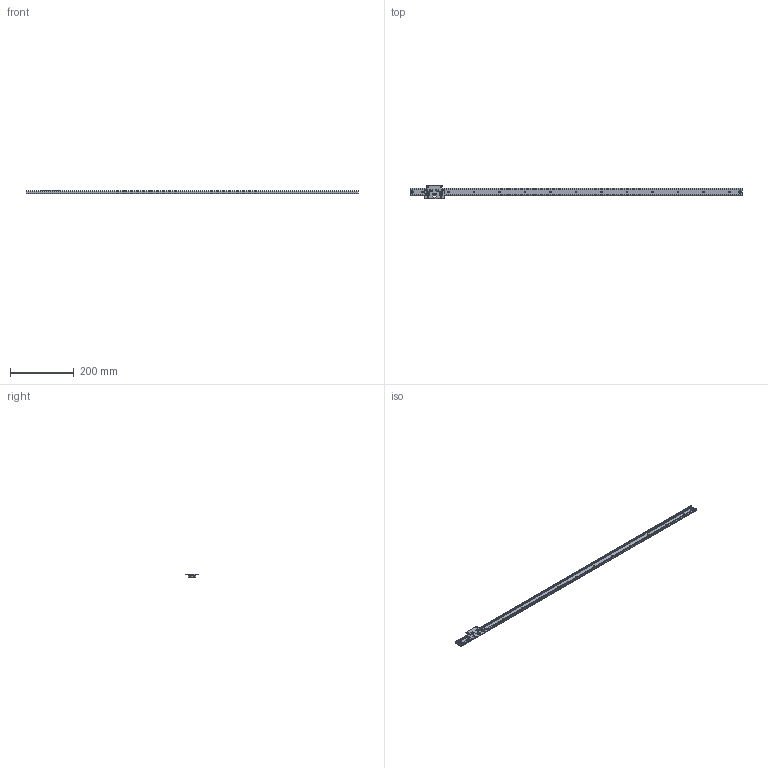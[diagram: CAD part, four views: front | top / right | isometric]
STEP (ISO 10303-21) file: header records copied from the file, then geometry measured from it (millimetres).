
FILE_DESCRIPTION((''),'1');
FILE_NAME('C:/Users/t-inoue/Desktop/25SW0960SS hp.stp','2016-07-29T02:42:56',(''),(''),'Spatial Interop R21 SP3','Kubotek KeyCreator 2011 V10.0.2 (22737)',' ');
FILE_SCHEMA(('automotive_design'));
Length unit declared in the file: millimetre
Products named in the file (452): Unnamed[1]
Bounding box: 1040 x 42 x 12 mm (x, y, z)
Surface area: 94296.7 mm2 (no closed solid volume)
Topology: 0 solids, 452 shells, 452 faces, 1988 edges, 1837 vertices
Faces by surface type: plane 200, cylinder 144, cone 99, torus 8, sphere 1
Full cylindrical faces by diameter (mm): 1.6 x1, 3.2 x6, 3.3 x4, 3.5 x1, 4 x10, 5 x6, 5.5 x4, 5.6 x2, 7 x6, 8.2 x2
Entity records: 39200 total; most frequent: CARTESIAN_POINT 4788, DIRECTION 4481, ORIENTED_EDGE 1810, EDGE_CURVE 1810, VERTEX_POINT 1810, PRESENTATION_STYLE_ASSIGNMENT 1808, COLOUR_RGB 1808, AXIS2_PLACEMENT_3D 1775
